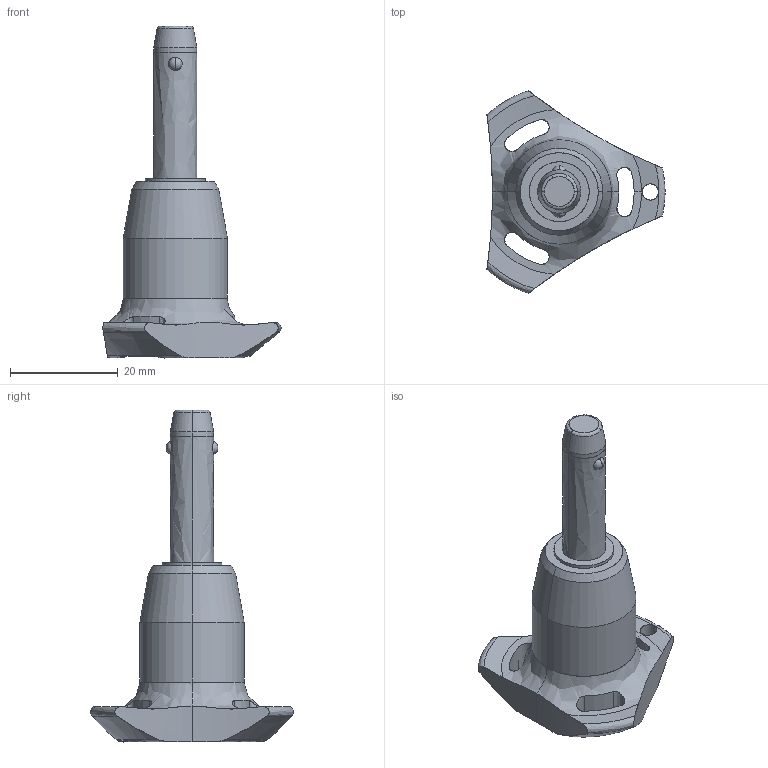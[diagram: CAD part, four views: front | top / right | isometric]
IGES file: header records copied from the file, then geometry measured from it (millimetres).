
Start section: SolidWorks IGES file using analytic representation for surfaces
Global section: file name: C:\Users\ianosborn\Desktop\33060_v2\33060.BK_v2_20240910_IGES\33060.W0834.igs; native system: SolidWorks 2019; preprocessor: SolidWorks 2019; author: IanOsborn; date: 240910.200903; units: millimetre
Bounding box: 33 x 37.51 x 61.5 mm (x, y, z)
Surface area: 4557.4 mm2 (no closed solid volume)
Topology: 0 solids, 0 shells, 68 faces, 1346 edges, 1342 vertices
Faces by surface type: revolution 52, bspline 16
